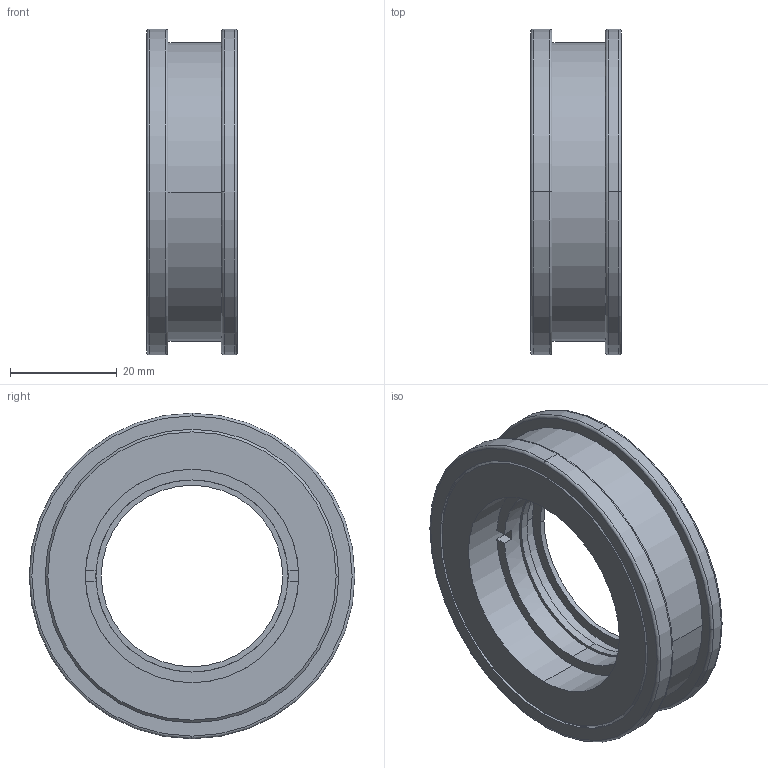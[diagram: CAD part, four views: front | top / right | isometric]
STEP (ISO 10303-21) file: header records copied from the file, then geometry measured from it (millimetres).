
FILE_DESCRIPTION (( 'STEP AP203' ), '1' );
FILE_NAME ('7MMPH1381Æ«¹â¾µÍ².STEP', '2019-12-05T06:05:27', ( '' ), ( '' ), 'SwSTEP 2.0', 'SolidWorks 2018', '' );
FILE_SCHEMA (( 'CONFIG_CONTROL_DESIGN' ));
Length unit declared in the file: millimetre
Products named in the file (1): 7MMPH1381ぇ嫖噩芠
Bounding box: 17 x 61 x 61 mm (x, y, z)
Volume: 25239 mm3; surface area: 13845 mm2
Topology: 4 solids, 4 shells, 63 faces, 138 edges, 88 vertices
Faces by surface type: cylinder 28, plane 21, torus 8, cone 6
Entity records: 1851 total; most frequent: DIRECTION 354, CARTESIAN_POINT 290, ORIENTED_EDGE 276, AXIS2_PLACEMENT_3D 152, EDGE_CURVE 138, VERTEX_POINT 88, CIRCLE 88, EDGE_LOOP 76
